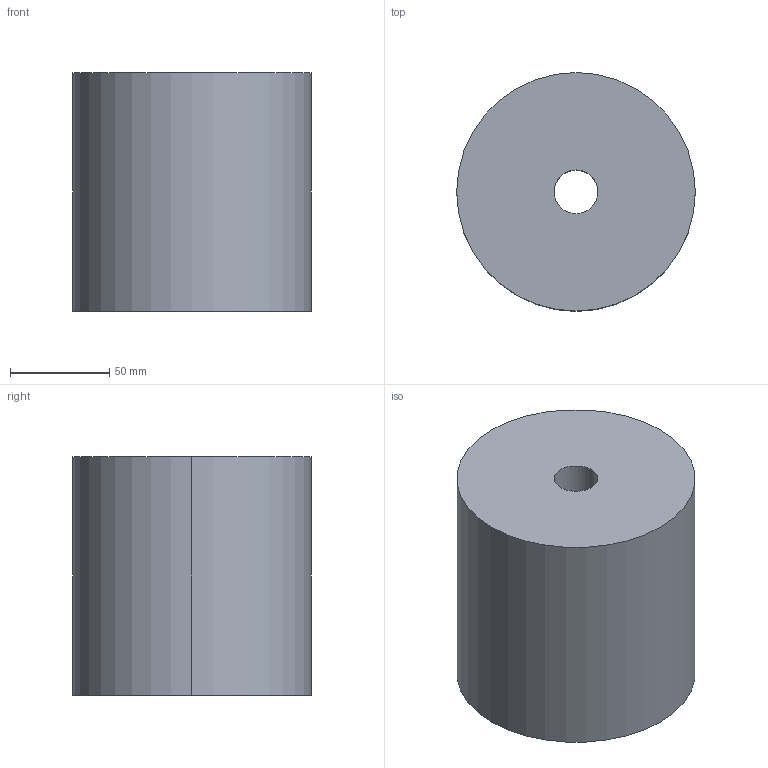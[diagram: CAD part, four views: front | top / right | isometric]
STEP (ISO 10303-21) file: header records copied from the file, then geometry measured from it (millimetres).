
FILE_DESCRIPTION(/* description */ (''),/* implementation_level */ '2;1');
FILE_NAME(/* name */ '3d_pa120-120_04901_r00.stp',/* time_stamp */ '2011-01-10T14:11:58+09:00',/* author */ ('MISUMI'),/* organization */ (''),/* preprocessor_version */ 'ST-DEVELOPER v11',/* originating_system */ 'UGS - NX 5.0',/* authorisation */ '');
FILE_SCHEMA (('CONFIG_CONTROL_DESIGN'));
Length unit declared in the file: millimetre
Products named in the file (1): 3d_pa120-120_04901_r00
Bounding box: 120 x 120 x 120 mm (x, y, z)
Volume: 1311552.1 mm3; surface area: 75391.9 mm2
Topology: 1 solids, 1 shells, 6 faces, 12 edges, 8 vertices
Faces by surface type: cylinder 4, plane 2
Entity records: 254 total; most frequent: DIRECTION 34, CARTESIAN_POINT 27, ORIENTED_EDGE 24, AXIS2_PLACEMENT_3D 15, EDGE_CURVE 12, EDGE_LOOP 8, VERTEX_POINT 8, CIRCLE 8
